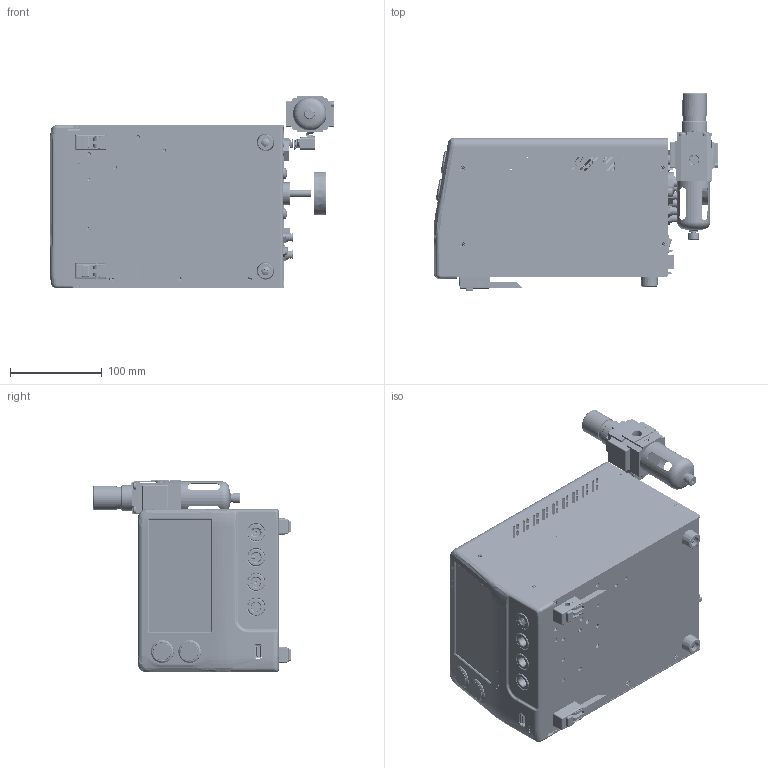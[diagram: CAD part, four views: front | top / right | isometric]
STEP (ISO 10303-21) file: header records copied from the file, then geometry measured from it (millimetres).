
FILE_DESCRIPTION (( 'STEP AP203' ), '1' );
FILE_NAME ('301234.STEP', '2024-10-16T17:28:02', ( '' ), ( '' ), 'SwSTEP 2.0', 'SolidWorks 2023', '' );
FILE_SCHEMA (( 'CONFIG_CONTROL_DESIGN' ));
Length unit declared in the file: inch
Products named in the file (1): 301234
Bounding box: 309.24 x 215.55 x 209.73 mm (x, y, z)
Surface area: 601122.7 mm2 (no closed solid volume)
Topology: 0 solids, 919 shells, 3489 faces, 20483 edges, 17622 vertices
Faces by surface type: plane 2057, cylinder 763, bspline 304, cone 244, torus 89, sphere 32
Full cylindrical faces by diameter (mm): 0.13 x1, 0.25 x6, 1.587 x1, 1.588 x1, 1.702 x1, 2.438 x5, 2.705 x4, 3.175 x5, 3.454 x1, 3.505 x2, 3.556 x1, 3.97 x6, 4 x2, 4.039 x5, 4.14 x3, 4.166 x1, 4.2 x4, 4.6 x1, 4.762 x15, 4.763 x2, 4.826 x2, 4.953 x3, 5 x7, 5.08 x4, 5.664 x1, 5.715 x1, 6 x1, 7.518 x1, 7.798 x1, 7.937 x1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
Entity records: 266067 total; most frequent: CARTESIAN_POINT 124962, ORIENTED_EDGE 24470, DIRECTION 24397, EDGE_CURVE 19884, VERTEX_POINT 17447, VECTOR 11805, LINE 11805, AXIS2_PLACEMENT_3D 6296
